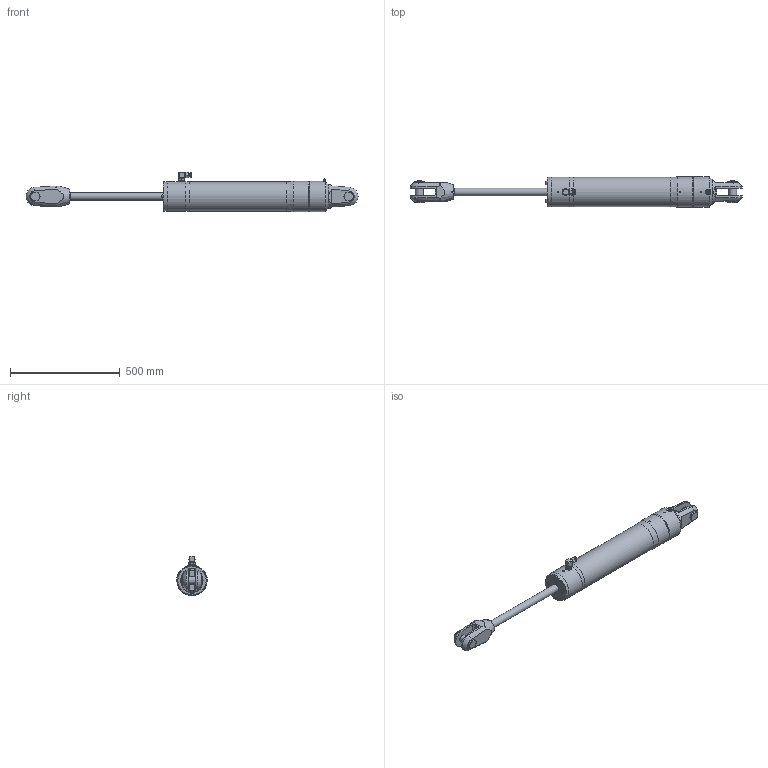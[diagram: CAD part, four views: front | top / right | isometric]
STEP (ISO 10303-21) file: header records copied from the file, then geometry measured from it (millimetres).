
FILE_DESCRIPTION(/* description */ (''),/* implementation_level */ '2;1');
FILE_NAME(/* name */ 'Q:\AA BRAND HYDRAULICS\HYDRAULICS FAMILY DIRECTORY\HYDRAULICS\CYLINDERS\RAMS\STAINLESS - STANDARD SINGLE ACTING (-0006 To -0260)\RSS-0091-S0425-NP-71\RSS-0091-S0425-NP-71 (Open).stp',/* time_stamp */ '2018-02-07T17:09:01+00:00',/* author */ ('Lorena'),/* organization */ (''),/* preprocessor_version */ 'ST-DEVELOPER v17',/* originating_system */ 'Autodesk Inventor 2018',/* authorisation */ '');
FILE_SCHEMA (('AUTOMOTIVE_DESIGN { 1 0 10303 214 3 1 1 }'));
Length unit declared in the file: millimetre
Products named in the file (1): RSS-0091-S0425-NP-71 (Open)
Bounding box: 1510.78 x 138.4 x 179.3 mm (x, y, z)
Volume: 12734400 mm3; surface area: 533418.9 mm2
Topology: 2 solids, 6 shells, 1793 faces, 4819 edges, 3185 vertices
Faces by surface type: plane 1016, bspline 574, cone 113, cylinder 82, torus 4, sphere 4
Full cylindrical faces by diameter (mm): 4 x1, 5 x3, 7 x1, 9 x1, 9.9 x1, 10 x4, 11 x2, 11.1 x1, 18.9 x1, 19 x2, 19.11 x1, 19.9 x1, 20 x3, 20.9 x2, 22 x2, 27.8 x3, 30 x1, 34.93 x2, 35 x1, 37 x1, 43.663 x2, 131.8 x1, 133.4 x1, 136.4 x1, 137.4 x1, 138.4 x2
Entity records: 63710 total; most frequent: CARTESIAN_POINT 21224, ORIENTED_EDGE 9622, DIRECTION 6341, EDGE_CURVE 4811, VERTEX_POINT 3186, LINE 2969, VECTOR 2969, EDGE_LOOP 1961
